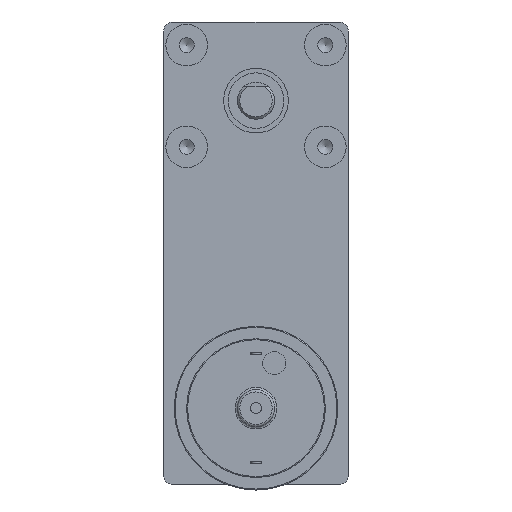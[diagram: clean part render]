
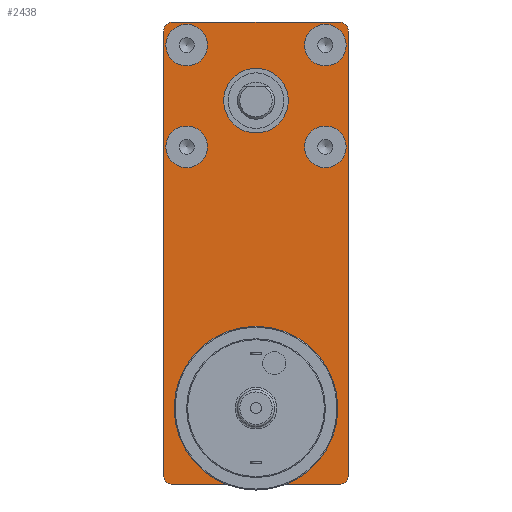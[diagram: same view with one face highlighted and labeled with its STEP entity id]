
A CAD part, front view. The second image highlights one B-rep face of the part: STEP entity #2438.
In plain terms, the highlighted planar face has unit normal (0, -1, 0).
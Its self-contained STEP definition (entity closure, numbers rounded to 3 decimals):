
#541=CARTESIAN_POINT('',(-18.,0.3,-83.0));
#542=VERTEX_POINT('',#541);
#549=CARTESIAN_POINT('',(-20.,0.3,-81.));
#550=VERTEX_POINT('',#549);
#551=CARTESIAN_POINT('',(-18.,0.3,-81.));
#552=DIRECTION('',(0.0,1.,0.0));
#553=DIRECTION('',(-0.707,0.0,-0.707));
#554=AXIS2_PLACEMENT_3D('',#551,#552,#553);
#555=CIRCLE('',#554,2.);
#556=EDGE_CURVE('',#542,#550,#555,.T.);
#605=CARTESIAN_POINT('',(18.,0.3,-83.0));
#606=VERTEX_POINT('',#605);
#613=CARTESIAN_POINT('',(18.,0.3,-83.0));
#614=DIRECTION('',(-1.0,0.0,0.0));
#615=VECTOR('',#614,36.);
#616=LINE('',#613,#615);
#617=EDGE_CURVE('',#606,#542,#616,.T.);
#701=CARTESIAN_POINT('',(20.,0.3,-81.));
#702=VERTEX_POINT('',#701);
#709=CARTESIAN_POINT('',(18.,0.3,-81.));
#710=DIRECTION('',(0.0,1.0,0.0));
#711=DIRECTION('',(0.707,0.0,-0.707));
#712=AXIS2_PLACEMENT_3D('',#709,#710,#711);
#713=CIRCLE('',#712,2.);
#714=EDGE_CURVE('',#702,#606,#713,.T.);
#751=CARTESIAN_POINT('',(20.0,0.3,15.0));
#752=VERTEX_POINT('',#751);
#759=CARTESIAN_POINT('',(20.0,0.3,15.));
#760=DIRECTION('',(0.0,0.0,-1.0));
#761=VECTOR('',#760,96.0);
#762=LINE('',#759,#761);
#763=EDGE_CURVE('',#752,#702,#762,.T.);
#831=CARTESIAN_POINT('',(18.0,0.3,17.0));
#832=VERTEX_POINT('',#831);
#839=CARTESIAN_POINT('',(18.0,0.3,15.0));
#840=DIRECTION('',(0.0,1.0,0.0));
#841=DIRECTION('',(0.707,0.0,0.707));
#842=AXIS2_PLACEMENT_3D('',#839,#840,#841);
#843=CIRCLE('',#842,2.0);
#844=EDGE_CURVE('',#832,#752,#843,.T.);
#2043=CARTESIAN_POINT('',(6.6,0.3,-66.5));
#2044=VERTEX_POINT('',#2043);
#2045=CARTESIAN_POINT('',(8.0,0.3,-66.5));
#2046=DIRECTION('',(0.0,1.0,0.0));
#2047=DIRECTION('',(1.0,0.0,0.0));
#2048=AXIS2_PLACEMENT_3D('',#2045,#2046,#2047);
#2049=CIRCLE('',#2048,1.4);
#2050=EDGE_CURVE('',#2044,#2044,#2049,.T.);
#2153=CARTESIAN_POINT('',(-9.4,0.3,-66.5));
#2154=VERTEX_POINT('',#2153);
#2155=CARTESIAN_POINT('',(-8.0,0.3,-66.5));
#2156=DIRECTION('',(0.0,1.0,0.0));
#2157=DIRECTION('',(1.0,0.0,0.0));
#2158=AXIS2_PLACEMENT_3D('',#2155,#2156,#2157);
#2159=CIRCLE('',#2158,1.4);
#2160=EDGE_CURVE('',#2154,#2154,#2159,.T.);
#2209=CARTESIAN_POINT('',(-20.0,0.3,15.));
#2210=VERTEX_POINT('',#2209);
#2211=CARTESIAN_POINT('',(-20.,0.3,-81.0));
#2212=DIRECTION('',(0.0,0.0,1.0));
#2213=VECTOR('',#2212,96.0);
#2214=LINE('',#2211,#2213);
#2215=EDGE_CURVE('',#550,#2210,#2214,.T.);
#2233=CARTESIAN_POINT('',(-18.0,0.3,17.0));
#2234=VERTEX_POINT('',#2233);
#2235=CARTESIAN_POINT('',(-18.0,0.3,15.));
#2236=DIRECTION('',(0.0,1.0,0.0));
#2237=DIRECTION('',(-0.707,0.0,0.707));
#2238=AXIS2_PLACEMENT_3D('',#2235,#2236,#2237);
#2239=CIRCLE('',#2238,2.0);
#2240=EDGE_CURVE('',#2210,#2234,#2239,.T.);
#2330=CARTESIAN_POINT('',(7.,0.3,0.));
#2331=VERTEX_POINT('',#2330);
#2332=CARTESIAN_POINT('',(0.0,0.3,0.0));
#2333=DIRECTION('',(0.0,1.0,0.0));
#2334=DIRECTION('',(-1.0,0.0,0.0));
#2335=AXIS2_PLACEMENT_3D('',#2332,#2333,#2334);
#2336=CIRCLE('',#2335,7.);
#2337=EDGE_CURVE('',#2331,#2331,#2336,.T.);
#2354=CARTESIAN_POINT('',(0.0,0.3,-33.));
#2355=DIRECTION('',(0.0,1.0,0.0));
#2356=DIRECTION('',(0.0,0.0,1.0));
#2357=AXIS2_PLACEMENT_3D('',#2354,#2355,#2356);
#2358=PLANE('',#2357);
#2359=ORIENTED_EDGE('',*,*,#844,.F.);
#2360=CARTESIAN_POINT('',(-18.0,0.3,17.0));
#2361=DIRECTION('',(1.0,0.0,0.0));
#2362=VECTOR('',#2361,36.0);
#2363=LINE('',#2360,#2362);
#2364=EDGE_CURVE('',#2234,#832,#2363,.T.);
#2365=ORIENTED_EDGE('',*,*,#2364,.F.);
#2366=ORIENTED_EDGE('',*,*,#2240,.F.);
#2367=ORIENTED_EDGE('',*,*,#2215,.F.);
#2368=ORIENTED_EDGE('',*,*,#556,.F.);
#2369=ORIENTED_EDGE('',*,*,#617,.F.);
#2370=ORIENTED_EDGE('',*,*,#714,.F.);
#2371=ORIENTED_EDGE('',*,*,#763,.F.);
#2372=EDGE_LOOP('',(#2359,#2365,#2366,#2367,#2368,#2369,#2370,#2371));
#2373=FACE_OUTER_BOUND('',#2372,.T.);
#2374=ORIENTED_EDGE('',*,*,#2050,.T.);
#2375=EDGE_LOOP('',(#2374));
#2376=FACE_BOUND('',#2375,.T.);
#2377=ORIENTED_EDGE('',*,*,#2160,.T.);
#2378=EDGE_LOOP('',(#2377));
#2379=FACE_BOUND('',#2378,.T.);
#2380=CARTESIAN_POINT('',(-10.5,0.3,12.));
#2381=VERTEX_POINT('',#2380);
#2382=CARTESIAN_POINT('',(-15.0,0.3,12.));
#2383=DIRECTION('',(0.0,-1.0,0.0));
#2384=DIRECTION('',(-1.0,0.0,0.0));
#2385=AXIS2_PLACEMENT_3D('',#2382,#2383,#2384);
#2386=CIRCLE('',#2385,4.5);
#2387=EDGE_CURVE('',#2381,#2381,#2386,.T.);
#2388=ORIENTED_EDGE('',*,*,#2387,.F.);
#2389=EDGE_LOOP('',(#2388));
#2390=FACE_BOUND('',#2389,.T.);
#2391=CARTESIAN_POINT('',(-10.5,0.3,-10.0));
#2392=VERTEX_POINT('',#2391);
#2393=CARTESIAN_POINT('',(-15.0,0.3,-10.0));
#2394=DIRECTION('',(0.0,-1.0,0.0));
#2395=DIRECTION('',(-1.0,0.0,0.0));
#2396=AXIS2_PLACEMENT_3D('',#2393,#2394,#2395);
#2397=CIRCLE('',#2396,4.5);
#2398=EDGE_CURVE('',#2392,#2392,#2397,.T.);
#2399=ORIENTED_EDGE('',*,*,#2398,.F.);
#2400=EDGE_LOOP('',(#2399));
#2401=FACE_BOUND('',#2400,.T.);
#2402=CARTESIAN_POINT('',(19.5,0.3,-10.0));
#2403=VERTEX_POINT('',#2402);
#2404=CARTESIAN_POINT('',(15.0,0.3,-10.0));
#2405=DIRECTION('',(0.0,-1.0,0.0));
#2406=DIRECTION('',(-1.0,0.0,0.0));
#2407=AXIS2_PLACEMENT_3D('',#2404,#2405,#2406);
#2408=CIRCLE('',#2407,4.5);
#2409=EDGE_CURVE('',#2403,#2403,#2408,.T.);
#2410=ORIENTED_EDGE('',*,*,#2409,.F.);
#2411=EDGE_LOOP('',(#2410));
#2412=FACE_BOUND('',#2411,.T.);
#2413=CARTESIAN_POINT('',(19.5,0.3,12.));
#2414=VERTEX_POINT('',#2413);
#2415=CARTESIAN_POINT('',(15.0,0.3,12.));
#2416=DIRECTION('',(0.0,-1.0,0.0));
#2417=DIRECTION('',(-1.0,0.0,0.0));
#2418=AXIS2_PLACEMENT_3D('',#2415,#2416,#2417);
#2419=CIRCLE('',#2418,4.5);
#2420=EDGE_CURVE('',#2414,#2414,#2419,.T.);
#2421=ORIENTED_EDGE('',*,*,#2420,.F.);
#2422=EDGE_LOOP('',(#2421));
#2423=FACE_BOUND('',#2422,.T.);
#2424=CARTESIAN_POINT('',(5.0,0.3,-66.5));
#2425=VERTEX_POINT('',#2424);
#2426=CARTESIAN_POINT('',(0.0,0.3,-66.5));
#2427=DIRECTION('',(0.0,1.0,0.0));
#2428=DIRECTION('',(-1.0,0.0,0.0));
#2429=AXIS2_PLACEMENT_3D('',#2426,#2427,#2428);
#2430=CIRCLE('',#2429,5.0);
#2431=EDGE_CURVE('',#2425,#2425,#2430,.T.);
#2432=ORIENTED_EDGE('',*,*,#2431,.T.);
#2433=EDGE_LOOP('',(#2432));
#2434=FACE_BOUND('',#2433,.T.);
#2435=ORIENTED_EDGE('',*,*,#2337,.T.);
#2436=EDGE_LOOP('',(#2435));
#2437=FACE_BOUND('',#2436,.T.);
#2438=ADVANCED_FACE('',(#2373,#2376,#2379,#2390,#2401,#2412,#2423,#2434,#2437),#2358,.F.);
